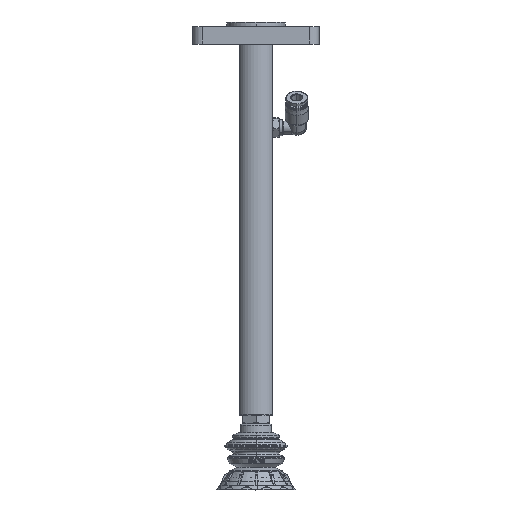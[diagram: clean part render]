
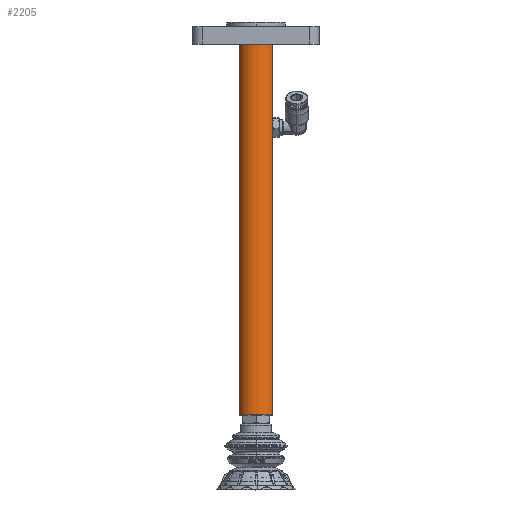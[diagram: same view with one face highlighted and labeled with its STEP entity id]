
A CAD part, top view. The second image highlights one B-rep face of the part: STEP entity #2205.
In plain terms, the highlighted cylindrical face has radius 10 mm (diameter 20 mm), a partial arc.
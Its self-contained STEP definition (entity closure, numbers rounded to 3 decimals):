
#116 = LINE ( 'NONE', #13759, #3579 ) ;
#2050 = CARTESIAN_POINT ( 'NONE',  ( 8.973, -44.8, 4.414 ) ) ;
#2205 = ADVANCED_FACE ( 'NONE', ( #22701 ), #12697, .T. ) ;
#2385 = B_SPLINE_CURVE_WITH_KNOTS ( 'NONE', 3,
 ( #14017, #2050, #24069, #10000 ),
 .UNSPECIFIED., .F., .F.,
 ( 4, 4 ),
 ( 0., 0.001 ),
 .UNSPECIFIED. ) ;
#2432 = DIRECTION ( 'NONE',  ( -1., 0., 0. ) ) ;
#3323 = DIRECTION ( 'NONE',  ( -1., 0., 0. ) ) ;
#3579 = VECTOR ( 'NONE', #7992, 1000. ) ;
#3661 = DIRECTION ( 'NONE',  ( -1., 0., 0. ) ) ;
#3697 = CARTESIAN_POINT ( 'NONE',  ( -9., -200., 4.359 ) ) ;
#3827 = CARTESIAN_POINT ( 'NONE',  ( -9., -200., 4.359 ) ) ;
#3857 = LINE ( 'NONE', #25665, #16976 ) ;
#3910 = ORIENTED_EDGE ( 'NONE', *, *, #15755, .T. ) ;
#4868 = VERTEX_POINT ( 'NONE', #3697 ) ;
#5540 = DIRECTION ( 'NONE',  ( 0., -1., 0. ) ) ;
#5837 = CARTESIAN_POINT ( 'NONE',  ( 0., 0., 0. ) ) ;
#6041 = ORIENTED_EDGE ( 'NONE', *, *, #21620, .F. ) ;
#7406 = EDGE_CURVE ( 'NONE', #8302, #4868, #9731, .T. ) ;
#7992 = DIRECTION ( 'NONE',  ( 0., 1., 0. ) ) ;
#8302 = VERTEX_POINT ( 'NONE', #19817 ) ;
#8499 = AXIS2_PLACEMENT_3D ( 'NONE', #5837, #21754, #3323 ) ;
#8754 = CARTESIAN_POINT ( 'NONE',  ( 9., -44.4, 4.359 ) ) ;
#9401 = CARTESIAN_POINT ( 'NONE',  ( 9., -45.6, 4.359 ) ) ;
#9731 = CIRCLE ( 'NONE', #9876, 10. ) ;
#9876 = AXIS2_PLACEMENT_3D ( 'NONE', #11678, #5540, #3661 ) ;
#10000 = CARTESIAN_POINT ( 'NONE',  ( 9., -45.6, 4.359 ) ) ;
#11678 = CARTESIAN_POINT ( 'NONE',  ( 0., -200., 0. ) ) ;
#12024 = ORIENTED_EDGE ( 'NONE', *, *, #25239, .T. ) ;
#12697 = CYLINDRICAL_SURFACE ( 'NONE', #22364, 10. ) ;
#13610 = DIRECTION ( 'NONE',  ( 0., 1., 0. ) ) ;
#13759 = CARTESIAN_POINT ( 'NONE',  ( 9., -200., 4.359 ) ) ;
#14017 = CARTESIAN_POINT ( 'NONE',  ( 9., -44.4, 4.359 ) ) ;
#14108 = VERTEX_POINT ( 'NONE', #21213 ) ;
#14390 = CARTESIAN_POINT ( 'NONE',  ( 0., -200., 0. ) ) ;
#15395 = CARTESIAN_POINT ( 'NONE',  ( 9., 0., 4.359 ) ) ;
#15755 = EDGE_CURVE ( 'NONE', #19852, #14108, #20438, .T. ) ;
#16100 = EDGE_LOOP ( 'NONE', ( #6041, #25715, #3910, #12024, #18244, #20011 ) ) ;
#16976 = VECTOR ( 'NONE', #13610, 1000. ) ;
#17885 = DIRECTION ( 'NONE',  ( 0., -1., 0. ) ) ;
#18244 = ORIENTED_EDGE ( 'NONE', *, *, #7406, .F. ) ;
#19817 = CARTESIAN_POINT ( 'NONE',  ( 9., -200., 4.359 ) ) ;
#19852 = VERTEX_POINT ( 'NONE', #15395 ) ;
#20011 = ORIENTED_EDGE ( 'NONE', *, *, #24111, .T. ) ;
#20360 = VERTEX_POINT ( 'NONE', #9401 ) ;
#20438 = CIRCLE ( 'NONE', #8499, 10. ) ;
#21213 = CARTESIAN_POINT ( 'NONE',  ( -9., 0., 4.359 ) ) ;
#21620 = EDGE_CURVE ( 'NONE', #21817, #20360, #2385, .T. ) ;
#21754 = DIRECTION ( 'NONE',  ( 0., -1., 0. ) ) ;
#21817 = VERTEX_POINT ( 'NONE', #8754 ) ;
#21943 = VECTOR ( 'NONE', #17885, 1000. ) ;
#22364 = AXIS2_PLACEMENT_3D ( 'NONE', #14390, #22605, #2432 ) ;
#22605 = DIRECTION ( 'NONE',  ( 0., -1., 0. ) ) ;
#22701 = FACE_OUTER_BOUND ( 'NONE', #16100, .T. ) ;
#23175 = EDGE_CURVE ( 'NONE', #21817, #19852, #116, .T. ) ;
#24069 = CARTESIAN_POINT ( 'NONE',  ( 8.973, -45.2, 4.414 ) ) ;
#24111 = EDGE_CURVE ( 'NONE', #8302, #20360, #3857, .T. ) ;
#24742 = LINE ( 'NONE', #3827, #21943 ) ;
#25239 = EDGE_CURVE ( 'NONE', #14108, #4868, #24742, .T. ) ;
#25665 = CARTESIAN_POINT ( 'NONE',  ( 9., -200., 4.359 ) ) ;
#25715 = ORIENTED_EDGE ( 'NONE', *, *, #23175, .T. ) ;
